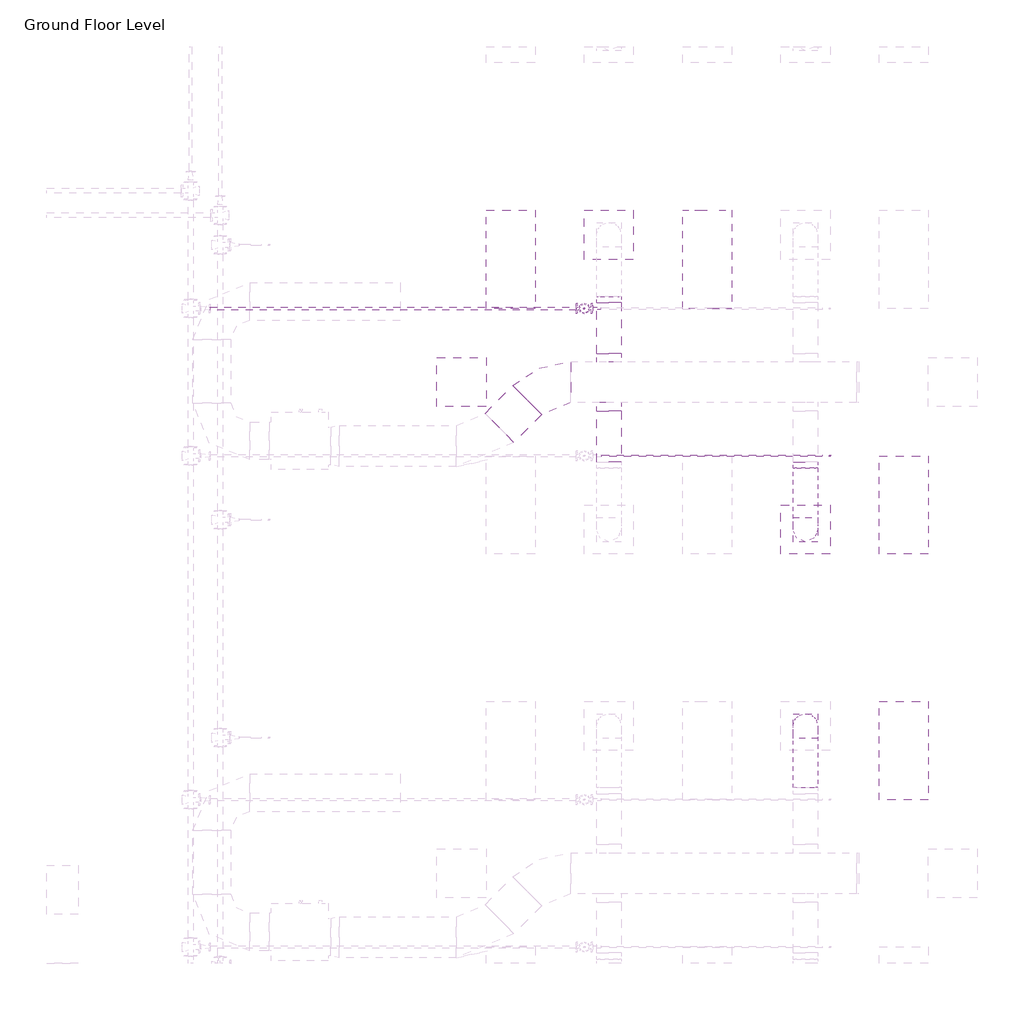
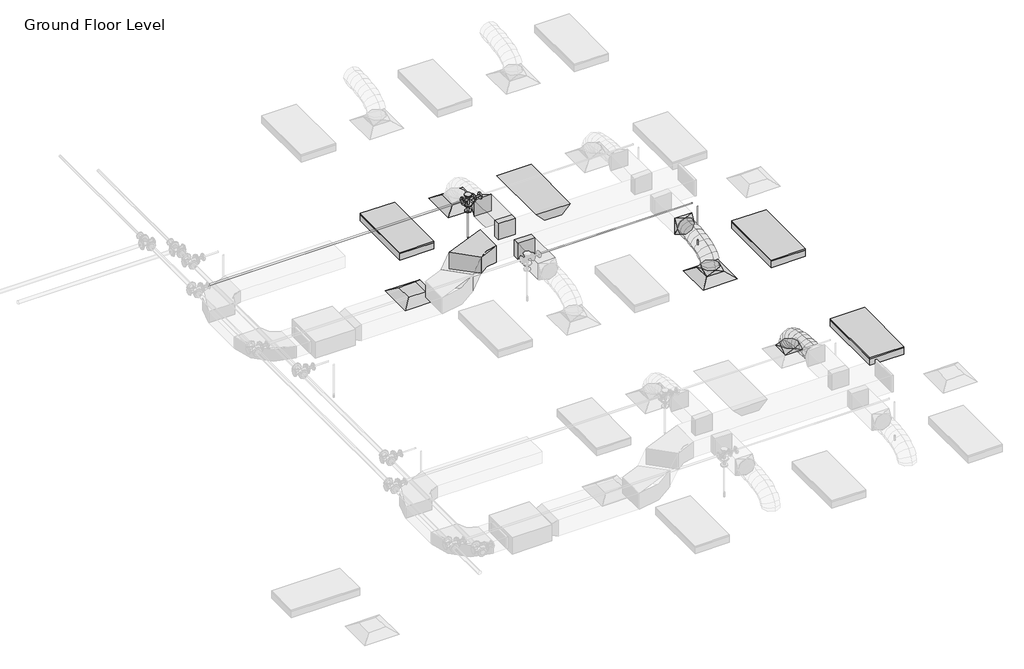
# One storey, part 62 of 66: 7 duct fittings, 5 duct segments, 4 light fixtures, 4 pipe segments, 3 air terminals, 3 pipe fittings, 2 fire suppression terminals.
"""IFC4 building model written with IfcOpenShell, lengths in millimetres."""

from ifc_helpers import new_model, si_unit, point, frame, frame_2d, origin, place, context, project, spatial, polyline, circle_curve, ellipse_curve, trimmed, segment, composite_curve, outline, extrude, transform, mapped, element, save
from ifc_brep_helpers import plane_surface, cylinder_surface, advanced_brep
from components import m_return_diffuser_600_x_600_face_300_x_300_connection_ff221211, m_rectangular_elbow_radius_1_5_w_acc56c25, m_rectangular_takeoff_standard_cb0ccb98, m_rectangular_takeoff_standard_2be5eba1, m_rectangular_to_round_transition_angle_45_degree_641efff0, m_sprinkler_dry_pendent_hosted_15_mm_dry_pendent_9bda8e11, m_emergency_recessed_lighting_fixture_600x1200_277_5b10b25d, m_troffer_light_parabolic_rectangular1_0600x1200mm_4_lamp_86473d4a, m_reducer_flanged_cs_class_150_standard_ccf252ad, m_tee_round_base_flanged_cs_class_150_standard_7e5987a1

model = new_model("IFC4")

# Units and contexts
model_context = context("Model", 3, world=origin())
ifc_project = project(units=[si_unit("LENGTHUNIT", "METRE", prefix="MILLI")], contexts=[model_context])

# Site, building, storey
site = spatial("IfcSite", under=ifc_project)
building = spatial("IfcBuilding", under=site)
storey = spatial("IfcBuildingStorey", under=building, Name="Ground Floor Level", Elevation=900.0)

# Air terminals
placement = place(None, origin())
m_return_diffuser_600_x_600_face_300_x_300_connection_shape = m_return_diffuser_600_x_600_face_300_x_300_connection_ff221211(model_context)
element("IfcAirTerminal", 1, ObjectType="M_Return Diffuser : 600 x 600 Face 300 x 300 Connection", at=placement, inside=storey, context=model_context, shape_type="MappedRepresentation", body=[
    mapped(m_return_diffuser_600_x_600_face_300_x_300_connection_shape, transform((8942.7672395, 12735.2153534, 3650.0), x_axis=(1.0, 0.0, 0.0), y_axis=(0.0, 1.0, 0.0), z_axis=(0.0, 0.0, 1.0))),
])
element("IfcAirTerminal", 2, ObjectType="M_Supply Diffuser : 600 x 600 Face 300 x 300 Connection", at=placement, inside=storey, context=model_context, shape_type="MappedRepresentation", body=[
    mapped(m_return_diffuser_600_x_600_face_300_x_300_connection_shape, transform((10742.7672395, 14535.2153534, 3650.0), x_axis=(1.0, 0.0, 0.0), y_axis=(0.0, 1.0, 0.0), z_axis=(0.0, 0.0, 1.0))),
])
element("IfcAirTerminal", 3, ObjectType="M_Supply Diffuser : 600 x 600 Face 300 x 300 Connection", at=placement, inside=storey, context=model_context, shape_type="MappedRepresentation", body=[
    mapped(m_return_diffuser_600_x_600_face_300_x_300_connection_shape, transform((13142.7672395, 10935.2153534, 3650.0), x_axis=(1.0, 0.0, 0.0), y_axis=(0.0, 1.0, 0.0), z_axis=(0.0, 0.0, 1.0))),
])

# Duct fittings
m_rectangular_elbow_radius_1_5_w_shape = m_rectangular_elbow_radius_1_5_w_acc56c25(model_context)
element("IfcDuctFitting", 4, ObjectType="M_Rectangular Elbow - Radius : 1.5 W", at=placement, inside=storey, context=model_context, shape_type="MappedRepresentation", body=[
    mapped(m_rectangular_elbow_radius_1_5_w_shape, transform((9966.7301365, 12735.2153534, 4100.0), x_axis=(-1.0, 0.0, 0.0), y_axis=(0.0, -0.9999999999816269, 6.061864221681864e-06), z_axis=(0.0, 6.061864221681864e-06, 0.9999999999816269))),
])
m_rectangular_takeoff_standard_shape = m_rectangular_takeoff_standard_cb0ccb98(model_context)
element("IfcDuctFitting", 5, ObjectType="M_Rectangular Takeoff : Standard", at=placement, inside=storey, context=model_context, shape_type="MappedRepresentation", body=[
    mapped(m_rectangular_takeoff_standard_shape, transform((10742.7672395, 12985.2153534, 4100.0), x_axis=(0.0, 1.0, 0.0), y_axis=(1.0, 0.0, 0.0), z_axis=(0.0, 0.0, -1.0))),
])
m_rectangular_takeoff_standard_2_shape = m_rectangular_takeoff_standard_2be5eba1(model_context)
element("IfcDuctFitting", 6, ObjectType="M_Rectangular Takeoff : Standard", at=placement, inside=storey, context=model_context, shape_type="MappedRepresentation", body=[
    mapped(m_rectangular_takeoff_standard_2_shape, transform((10742.7672395, 12485.2153534, 4100.0), x_axis=(0.0, -1.0, 0.0), y_axis=(-1.0, 0.0, 0.0), z_axis=(0.0, 0.0, -1.0))),
])
m_rectangular_to_round_transition_angle_45_degree_shape = m_rectangular_to_round_transition_angle_45_degree_641efff0(model_context)
element("IfcDuctFitting", 7, ObjectType="M_Rectangular to Round Transition - Angle : 45 Degree", at=placement, inside=storey, context=model_context, shape_type="MappedRepresentation", body=[
    mapped(m_rectangular_to_round_transition_angle_45_degree_shape, transform((13142.7672395, 8535.2153534, 3751.6), x_axis=(0.0, 0.0, 1.0), y_axis=(-1.0, 0.0, 0.0), z_axis=(0.0, -1.0, 0.0))),
])
element("IfcDuctFitting", 8, ObjectType="M_Rectangular to Round Transition - Angle : 45 Degree", at=placement, inside=storey, context=model_context, shape_type="MappedRepresentation", body=[
    mapped(m_rectangular_to_round_transition_angle_45_degree_shape, transform((10742.7672395, 13707.8794221, 4100.0), x_axis=(0.0, 1.0, 0.0), y_axis=(-1.0, 0.0, 0.0), z_axis=(0.0, 0.0, 1.0))),
])
element("IfcDuctFitting", 9, ObjectType="M_Rectangular to Round Transition - Angle : 45 Degree", at=placement, inside=storey, context=model_context, shape_type="MappedRepresentation", body=[
    mapped(m_rectangular_to_round_transition_angle_45_degree_shape, transform((13142.7672395, 10935.2153534, 3751.6), x_axis=(0.0, 0.0, 1.0), y_axis=(-1.0, 0.0, 0.0), z_axis=(0.0, -1.0, 0.0))),
])
element("IfcDuctFitting", 10, ObjectType="M_Rectangular to Round Transition - Angle : 45 Degree", at=placement, inside=storey, context=model_context, shape_type="MappedRepresentation", body=[
    mapped(m_rectangular_to_round_transition_angle_45_degree_shape, transform((13142.7672395, 11762.5512847, 4100.0), x_axis=(0.0, -1.0, 0.0), y_axis=(1.0, 0.0, 0.0), z_axis=(0.0, 0.0, 1.0))),
])

# Duct segments
element("IfcDuctSegment", 11, ObjectType="Flex - Round", at=placement, inside=storey, context=model_context, shape_type="AdvancedBrep", body=[
    advanced_brep(
    [(13292.7672395, 8535.2153534, 3826.6), (13142.7672395, 8385.2153534, 3826.6), (12992.7672395, 8535.2153534, 3826.6), (13142.7672395, 8685.2153534, 3826.6), (13292.7672395, 8535.2153534, 3857.9377114), (13142.7672395, 8385.2153534, 3832.2944892), (12992.7672395, 8535.2153534, 3857.9377114), (13142.7672395, 8685.2153534, 3883.5809337), (13292.7672395, 8518.1994208, 3906.2505728), (13142.7672395, 8384.4614419, 3834.435049), (12992.7672395, 8518.1994208, 3906.2505728), (13142.7672395, 8651.9373998, 3978.0660967), (13292.7672395, 8471.0155405, 3968.7113131), (13142.7672395, 8366.8096412, 3857.8020236), (12992.7672395, 8471.0155405, 3968.7113131), (13142.7672395, 8575.2214397, 4079.6206026), (13292.7672395, 8399.4595883, 4016.0700639), (13142.7672395, 8330.5255327, 3881.8163788), (12992.7672395, 8399.4595883, 4016.0700639), (13142.7672395, 8468.3936439, 4150.3237489), (13292.7672395, 8309.3274403, 4050.4146682), (13142.7672395, 8265.7666771, 3906.4925606), (12992.7672395, 8309.3274403, 4050.4146682), (13142.7672395, 8352.8882035, 4194.3367758), (13292.7672395, 8206.4149725, 4073.8329691), (13142.7672395, 8179.8540485, 3926.0424542), (12992.7672395, 8206.4149725, 4073.8329691), (13142.7672395, 8232.9758965, 4221.6234841), (13292.7672395, 8096.5180607, 4088.4128097), (13142.7672395, 8081.3671584, 3939.1085462), (12992.7672395, 8096.5180607, 4088.4128097), (13142.7672395, 8111.6689631, 4237.7170733), (13292.7672395, 7985.4325811, 4096.242033), (13142.7672395, 7977.9272529, 3946.398915), (12992.7672395, 7985.4325811, 4096.242033), (13142.7672395, 7992.9379093, 4246.085151), (13292.7672395, 7878.9544096, 4099.4084821), (13142.7672395, 7876.2629165, 3949.4222102), (12992.7672395, 7878.9544096, 4099.4084821), (13142.7672395, 7881.6459027, 4249.394754), (13292.7672395, 7782.8794221, 4100.0), (13142.7672395, 7783.8029299, 4249.9971571), (12992.7672395, 7782.8794221, 4100.0), (13142.7672395, 7781.9559143, 3950.0028429)],
    [
        (0, 1, circle_curve(frame((13142.7672395, 8535.2153534, 3826.6), z_axis=(0.0, 0.0, -1.0), x_axis=(1.0, 0.0, 0.0)), 150.0)),
        (1, 2, circle_curve(frame((13142.7672395, 8535.2153534, 3826.6), z_axis=(0.0, 0.0, -1.0), x_axis=(1.0, 0.0, 0.0)), 150.0)),
        (2, 3, circle_curve(frame((13142.7672395, 8535.2153534, 3826.6), z_axis=(0.0, 0.0, -1.0), x_axis=(1.0, 0.0, 0.0)), 150.0)),
        (3, 0, circle_curve(frame((13142.7672395, 8535.2153534, 3826.6), z_axis=(0.0, 0.0, -1.0), x_axis=(1.0, 0.0, 0.0)), 150.0)),
        (0, 4),
        (4, 5, ellipse_curve(frame((13142.7672395, 8535.2153534, 3857.9377114), z_axis=(0.0, 0.16851014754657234, -0.9856999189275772), x_axis=(0.0, -0.9856999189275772, -0.1685101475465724)), 152.176131, 150.0)),
        (5, 1),
        (5, 6, ellipse_curve(frame((13142.7672395, 8535.2153534, 3857.9377114), z_axis=(0.0, 0.16851014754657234, -0.9856999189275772), x_axis=(0.0, -0.9856999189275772, -0.1685101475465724)), 152.176131, 150.0)),
        (6, 2),
        (6, 7, ellipse_curve(frame((13142.7672395, 8535.2153534, 3857.9377114), z_axis=(0.0, 0.16851014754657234, -0.9856999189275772), x_axis=(0.0, -0.9856999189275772, -0.1685101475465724)), 152.176131, 150.0)),
        (7, 3),
        (7, 4, ellipse_curve(frame((13142.7672395, 8535.2153534, 3857.9377114), z_axis=(0.0, 0.16851014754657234, -0.9856999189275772), x_axis=(0.0, -0.9856999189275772, -0.1685101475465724)), 152.176131, 150.0)),
        (4, 8),
        (8, 9, ellipse_curve(frame((13142.7672395, 8518.1994208, 3906.2505728), z_axis=(0.0, 0.4730922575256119, -0.8810128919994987), x_axis=(0.0, -0.8810128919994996, -0.47309225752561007)), 151.8002519, 150.0)),
        (9, 5),
        (9, 10, ellipse_curve(frame((13142.7672395, 8518.1994208, 3906.2505728), z_axis=(0.0, 0.4730922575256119, -0.8810128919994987), x_axis=(0.0, -0.8810128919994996, -0.47309225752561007)), 151.8002519, 150.0)),
        (10, 6),
        (10, 11, ellipse_curve(frame((13142.7672395, 8518.1994208, 3906.2505728), z_axis=(0.0, 0.4730922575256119, -0.8810128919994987), x_axis=(0.0, -0.8810128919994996, -0.47309225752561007)), 151.8002519, 150.0)),
        (11, 7),
        (11, 8, ellipse_curve(frame((13142.7672395, 8518.1994208, 3906.2505728), z_axis=(0.0, 0.4730922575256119, -0.8810128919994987), x_axis=(0.0, -0.8810128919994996, -0.47309225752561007)), 151.8002519, 150.0)),
        (8, 12),
        (12, 13, ellipse_curve(frame((13142.7672395, 8471.0155405, 3968.7113131), z_axis=(0.0, 0.7287877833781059, -0.6847396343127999), x_axis=(0.0, -0.6847396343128, -0.7287877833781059)), 152.1832446, 150.0)),
        (13, 9),
        (13, 14, ellipse_curve(frame((13142.7672395, 8471.0155405, 3968.7113131), z_axis=(0.0, 0.7287877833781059, -0.6847396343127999), x_axis=(0.0, -0.6847396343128, -0.7287877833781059)), 152.1832446, 150.0)),
        (14, 10),
        (14, 15, ellipse_curve(frame((13142.7672395, 8471.0155405, 3968.7113131), z_axis=(0.0, 0.7287877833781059, -0.6847396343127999), x_axis=(0.0, -0.6847396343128, -0.7287877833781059)), 152.1832446, 150.0)),
        (15, 11),
        (15, 12, ellipse_curve(frame((13142.7672395, 8471.0155405, 3968.7113131), z_axis=(0.0, 0.7287877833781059, -0.6847396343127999), x_axis=(0.0, -0.6847396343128, -0.7287877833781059)), 152.1832446, 150.0)),
        (12, 16),
        (16, 17, ellipse_curve(frame((13142.7672395, 8399.4595883, 4016.0700639), z_axis=(0.0, 0.8895859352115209, -0.4567678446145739), x_axis=(0.0, -0.4567678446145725, -0.8895859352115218)), 150.91705, 150.0)),
        (17, 13),
        (17, 18, ellipse_curve(frame((13142.7672395, 8399.4595883, 4016.0700639), z_axis=(0.0, 0.8895859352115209, -0.4567678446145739), x_axis=(0.0, -0.4567678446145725, -0.8895859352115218)), 150.91705, 150.0)),
        (18, 14),
        (18, 19, ellipse_curve(frame((13142.7672395, 8399.4595883, 4016.0700639), z_axis=(0.0, 0.8895859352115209, -0.4567678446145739), x_axis=(0.0, -0.4567678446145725, -0.8895859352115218)), 150.91705, 150.0)),
        (19, 15),
        (19, 16, ellipse_curve(frame((13142.7672395, 8399.4595883, 4016.0700639), z_axis=(0.0, 0.8895859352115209, -0.4567678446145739), x_axis=(0.0, -0.4567678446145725, -0.8895859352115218)), 150.91705, 150.0)),
        (16, 20),
        (20, 21, ellipse_curve(frame((13142.7672395, 8309.3274403, 4050.4146682), z_axis=(0.0, 0.9571203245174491, -0.28969067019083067), x_axis=(0.0, -0.28969067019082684, -0.9571203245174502)), 150.369921, 150.0)),
        (21, 17),
        (21, 22, ellipse_curve(frame((13142.7672395, 8309.3274403, 4050.4146682), z_axis=(0.0, 0.9571203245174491, -0.28969067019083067), x_axis=(0.0, -0.28969067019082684, -0.9571203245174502)), 150.369921, 150.0)),
        (22, 18),
        (22, 23, ellipse_curve(frame((13142.7672395, 8309.3274403, 4050.4146682), z_axis=(0.0, 0.9571203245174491, -0.28969067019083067), x_axis=(0.0, -0.28969067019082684, -0.9571203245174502)), 150.369921, 150.0)),
        (23, 19),
        (23, 20, ellipse_curve(frame((13142.7672395, 8309.3274403, 4050.4146682), z_axis=(0.0, 0.9571203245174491, -0.28969067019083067), x_axis=(0.0, -0.28969067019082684, -0.9571203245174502)), 150.369921, 150.0)),
        (20, 24),
        (24, 25, ellipse_curve(frame((13142.7672395, 8206.4149725, 4073.8329691), z_axis=(0.0, 0.9842313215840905, -0.17688613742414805), x_axis=(0.0, -0.17688613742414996, -0.9842313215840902)), 150.1583131, 150.0)),
        (25, 21),
        (25, 26, ellipse_curve(frame((13142.7672395, 8206.4149725, 4073.8329691), z_axis=(0.0, 0.9842313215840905, -0.17688613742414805), x_axis=(0.0, -0.17688613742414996, -0.9842313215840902)), 150.1583131, 150.0)),
        (26, 22),
        (26, 27, ellipse_curve(frame((13142.7672395, 8206.4149725, 4073.8329691), z_axis=(0.0, 0.9842313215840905, -0.17688613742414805), x_axis=(0.0, -0.17688613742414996, -0.9842313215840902)), 150.1583131, 150.0)),
        (27, 23),
        (27, 24, ellipse_curve(frame((13142.7672395, 8206.4149725, 4073.8329691), z_axis=(0.0, 0.9842313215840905, -0.17688613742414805), x_axis=(0.0, -0.17688613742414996, -0.9842313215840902)), 150.1583131, 150.0)),
        (24, 28),
        (28, 29, ellipse_curve(frame((13142.7672395, 8096.5180607, 4088.4128097), z_axis=(0.0, 0.9948906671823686, -0.10095821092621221), x_axis=(0.0, -0.10095821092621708, -0.9948906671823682)), 150.0710264, 150.0)),
        (29, 25),
        (29, 30, ellipse_curve(frame((13142.7672395, 8096.5180607, 4088.4128097), z_axis=(0.0, 0.9948906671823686, -0.10095821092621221), x_axis=(0.0, -0.10095821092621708, -0.9948906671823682)), 150.0710264, 150.0)),
        (30, 26),
        (30, 31, ellipse_curve(frame((13142.7672395, 8096.5180607, 4088.4128097), z_axis=(0.0, 0.9948906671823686, -0.10095821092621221), x_axis=(0.0, -0.10095821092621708, -0.9948906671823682)), 150.0710264, 150.0)),
        (31, 27),
        (31, 28, ellipse_curve(frame((13142.7672395, 8096.5180607, 4088.4128097), z_axis=(0.0, 0.9948906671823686, -0.10095821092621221), x_axis=(0.0, -0.10095821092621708, -0.9948906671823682)), 150.0710264, 150.0)),
        (28, 32),
        (32, 33, ellipse_curve(frame((13142.7672395, 7985.4325811, 4096.242033), z_axis=(0.0, 0.9987479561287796, -0.05002519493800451), x_axis=(0.0, -0.050025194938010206, -0.9987479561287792)), 150.0309634, 150.0)),
        (33, 29),
        (33, 34, ellipse_curve(frame((13142.7672395, 7985.4325811, 4096.242033), z_axis=(0.0, 0.9987479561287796, -0.05002519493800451), x_axis=(0.0, -0.050025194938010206, -0.9987479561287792)), 150.0309634, 150.0)),
        (34, 30),
        (34, 35, ellipse_curve(frame((13142.7672395, 7985.4325811, 4096.242033), z_axis=(0.0, 0.9987479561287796, -0.05002519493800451), x_axis=(0.0, -0.050025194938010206, -0.9987479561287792)), 150.0309634, 150.0)),
        (35, 31),
        (35, 32, ellipse_curve(frame((13142.7672395, 7985.4325811, 4096.242033), z_axis=(0.0, 0.9987479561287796, -0.05002519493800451), x_axis=(0.0, -0.050025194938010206, -0.9987479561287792)), 150.0309634, 150.0)),
        (32, 36),
        (36, 37, ellipse_curve(frame((13142.7672395, 7878.9544096, 4099.4084821), z_axis=(0.0, 0.9998390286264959, -0.017942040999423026), x_axis=(0.0, -0.01794204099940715, -0.9998390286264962)), 150.0104193, 150.0)),
        (37, 33),
        (37, 38, ellipse_curve(frame((13142.7672395, 7878.9544096, 4099.4084821), z_axis=(0.0, 0.9998390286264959, -0.017942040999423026), x_axis=(0.0, -0.01794204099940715, -0.9998390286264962)), 150.0104193, 150.0)),
        (38, 34),
        (38, 39, ellipse_curve(frame((13142.7672395, 7878.9544096, 4099.4084821), z_axis=(0.0, 0.9998390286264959, -0.017942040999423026), x_axis=(0.0, -0.01794204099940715, -0.9998390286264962)), 150.0104193, 150.0)),
        (39, 35),
        (39, 36, ellipse_curve(frame((13142.7672395, 7878.9544096, 4099.4084821), z_axis=(0.0, 0.9998390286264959, -0.017942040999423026), x_axis=(0.0, -0.01794204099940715, -0.9998390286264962)), 150.0104193, 150.0)),
        (40, 41, circle_curve(frame((13142.7672395, 7782.8794221, 4100.0), z_axis=(0.0, -0.9999810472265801, 0.006156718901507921), x_axis=(1.0, 0.0, 0.0)), 150.0)),
        (41, 42, circle_curve(frame((13142.7672395, 7782.8794221, 4100.0), z_axis=(0.0, -0.9999810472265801, 0.006156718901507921), x_axis=(1.0, 0.0, 0.0)), 150.0)),
        (42, 43, circle_curve(frame((13142.7672395, 7782.8794221, 4100.0), z_axis=(0.0, -0.9999810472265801, 0.006156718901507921), x_axis=(1.0, 0.0, 0.0)), 150.0)),
        (43, 40, circle_curve(frame((13142.7672395, 7782.8794221, 4100.0), z_axis=(0.0, -0.9999810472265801, 0.006156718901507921), x_axis=(1.0, 0.0, 0.0)), 150.0)),
        (36, 40),
        (43, 37),
        (42, 38),
        (41, 39),
    ],
    [
        plane_surface(frame((13142.7672395, 8385.2153534, 3826.6), z_axis=(0.0, 0.0, -1.0), x_axis=(1.0, 0.0, 0.0))),
        cylinder_surface(frame((13142.7672395, 8535.2153534, 3826.6), z_axis=(0.0, 0.0, -1.0), x_axis=(1.0, 0.0, 0.0)), 150.0),
        cylinder_surface(frame((13142.7672395, 8535.2153534, 3857.9377114), z_axis=(0.0, 0.3322008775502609, -0.9432086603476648), x_axis=(1.0, 0.0, 0.0)), 150.0),
        cylinder_surface(frame((13142.7672395, 8518.1994208, 3906.2505728), z_axis=(0.0, 0.6027625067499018, -0.7979206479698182), x_axis=(1.0, 0.0, 0.0)), 150.0),
        cylinder_surface(frame((13142.7672395, 8471.0155405, 3968.7113131), z_axis=(0.0, 0.8339024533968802, -0.5519118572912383), x_axis=(1.0, 0.0, 0.0)), 150.0),
        cylinder_surface(frame((13142.7672395, 8399.4595883, 4016.0700639), z_axis=(0.0, 0.934458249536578, -0.35607271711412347), x_axis=(1.0, 0.0, 0.0)), 150.0),
        cylinder_surface(frame((13142.7672395, 8309.3274403, 4050.4146682), z_axis=(0.0, 0.9750732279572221, -0.22188330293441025), x_axis=(1.0, 0.0, 0.0)), 150.0),
        cylinder_surface(frame((13142.7672395, 8206.4149725, 4073.8329691), z_axis=(0.0, 0.9913140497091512, -0.1315159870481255), x_axis=(1.0, 0.0, 0.0)), 150.0),
        cylinder_surface(frame((13142.7672395, 8096.5180607, 4088.4128097), z_axis=(0.0, 0.9975255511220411, -0.07030487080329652), x_axis=(1.0, 0.0, 0.0)), 150.0),
        cylinder_surface(frame((13142.7672395, 7985.4325811, 4096.242033), z_axis=(0.0, 0.9995581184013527, -0.02972487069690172), x_axis=(1.0, 0.0, 0.0)), 150.0),
        plane_surface(frame((13142.7672395, 7781.9559143, 3950.0028429), z_axis=(0.0, -0.9999810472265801, 0.006156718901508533), x_axis=(1.0, 0.0, 0.0))),
        cylinder_surface(frame((13142.7672395, 7878.9544096, 4099.4084821), z_axis=(0.0, 0.9999810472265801, -0.006156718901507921), x_axis=(1.0, 0.0, 0.0)), 150.0),
    ],
    [
        (0, [[1, 2, 3, 4]]),
        (1, [[-1, 5, 6, 7]]),
        (1, [[-2, -7, 8, 9]]),
        (1, [[-3, -9, 10, 11]]),
        (1, [[-4, -11, 12, -5]]),
        (2, [[-6, 13, 14, 15]]),
        (2, [[-8, -15, 16, 17]]),
        (2, [[-10, -17, 18, 19]]),
        (2, [[-12, -19, 20, -13]]),
        (3, [[-14, 21, 22, 23]]),
        (3, [[-16, -23, 24, 25]]),
        (3, [[-18, -25, 26, 27]]),
        (3, [[-20, -27, 28, -21]]),
        (4, [[-22, 29, 30, 31]]),
        (4, [[-24, -31, 32, 33]]),
        (4, [[-26, -33, 34, 35]]),
        (4, [[-28, -35, 36, -29]]),
        (5, [[-30, 37, 38, 39]]),
        (5, [[-32, -39, 40, 41]]),
        (5, [[-34, -41, 42, 43]]),
        (5, [[-36, -43, 44, -37]]),
        (6, [[-38, 45, 46, 47]]),
        (6, [[-40, -47, 48, 49]]),
        (6, [[-42, -49, 50, 51]]),
        (6, [[-44, -51, 52, -45]]),
        (7, [[-46, 53, 54, 55]]),
        (7, [[-48, -55, 56, 57]]),
        (7, [[-50, -57, 58, 59]]),
        (7, [[-52, -59, 60, -53]]),
        (8, [[-54, 61, 62, 63]]),
        (8, [[-56, -63, 64, 65]]),
        (8, [[-58, -65, 66, 67]]),
        (8, [[-60, -67, 68, -61]]),
        (9, [[-62, 69, 70, 71]]),
        (9, [[-64, -71, 72, 73]]),
        (9, [[-66, -73, 74, 75]]),
        (9, [[-68, -75, 76, -69]]),
        (10, [[77, 78, 79, 80]]),
        (11, [[-70, 81, -80, 82]]),
        (11, [[-72, -82, -79, 83]]),
        (11, [[-74, -83, -78, 84]]),
        (11, [[-76, -84, -77, -81]]),
    ],
),
])
element("IfcDuctSegment", 12, ObjectType="Flex - Round", at=placement, inside=storey, context=model_context, shape_type="AdvancedBrep", body=[
    advanced_brep(
    [(13292.7672395, 10935.2153534, 3826.6), (13142.7672395, 10785.2153534, 3826.6), (12992.7672395, 10935.2153534, 3826.6), (13142.7672395, 11085.2153534, 3826.6), (13292.7672395, 10935.2153534, 3857.9377114), (13142.7672395, 10785.2153534, 3883.5809337), (12992.7672395, 10935.2153534, 3857.9377114), (13142.7672395, 11085.2153534, 3832.2944892), (13292.7672395, 10952.2312859, 3906.2505728), (13142.7672395, 10818.493307, 3978.0660967), (12992.7672395, 10952.2312859, 3906.2505728), (13142.7672395, 11085.9692649, 3834.435049), (13292.7672395, 10999.4151663, 3968.7113131), (13142.7672395, 10895.209267, 4079.6206026), (12992.7672395, 10999.4151663, 3968.7113131), (13142.7672395, 11103.6210655, 3857.8020236), (13292.7672395, 11070.9711184, 4016.0700639), (13142.7672395, 11002.0370628, 4150.3237489), (12992.7672395, 11070.9711184, 4016.0700639), (13142.7672395, 11139.9051741, 3881.8163788), (13292.7672395, 11161.1032664, 4050.4146682), (13142.7672395, 11117.5425033, 4194.3367758), (12992.7672395, 11161.1032664, 4050.4146682), (13142.7672395, 11204.6640296, 3906.4925606), (13292.7672395, 11264.0157343, 4073.8329691), (13142.7672395, 11237.4548103, 4221.6234841), (12992.7672395, 11264.0157343, 4073.8329691), (13142.7672395, 11290.5766583, 3926.0424542), (13292.7672395, 11373.912646, 4088.4128097), (13142.7672395, 11358.7617437, 4237.7170733), (12992.7672395, 11373.912646, 4088.4128097), (13142.7672395, 11389.0635483, 3939.1085462), (13292.7672395, 11484.9981256, 4096.242033), (13142.7672395, 11477.4927975, 4246.085151), (12992.7672395, 11484.9981256, 4096.242033), (13142.7672395, 11492.5034538, 3946.398915), (13292.7672395, 11591.4762972, 4099.4084821), (13142.7672395, 11588.7848041, 4249.394754), (12992.7672395, 11591.4762972, 4099.4084821), (13142.7672395, 11594.1677903, 3949.4222102), (13292.7672395, 11687.5512847, 4100.0), (13142.7672395, 11688.4747925, 3950.0028429), (12992.7672395, 11687.5512847, 4100.0), (13142.7672395, 11686.6277768, 4249.9971571)],
    [
        (0, 1, circle_curve(frame((13142.7672395, 10935.2153534, 3826.6), z_axis=(0.0, 0.0, -1.0), x_axis=(1.0, 0.0, 0.0)), 150.0)),
        (1, 2, circle_curve(frame((13142.7672395, 10935.2153534, 3826.6), z_axis=(0.0, 0.0, -1.0), x_axis=(1.0, 0.0, 0.0)), 150.0)),
        (2, 3, circle_curve(frame((13142.7672395, 10935.2153534, 3826.6), z_axis=(0.0, 0.0, -1.0), x_axis=(1.0, 0.0, 0.0)), 150.0)),
        (3, 0, circle_curve(frame((13142.7672395, 10935.2153534, 3826.6), z_axis=(0.0, 0.0, -1.0), x_axis=(1.0, 0.0, 0.0)), 150.0)),
        (0, 4),
        (4, 5, ellipse_curve(frame((13142.7672395, 10935.2153534, 3857.9377114), z_axis=(0.0, -0.16851014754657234, -0.9856999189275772), x_axis=(0.0, 0.9856999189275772, -0.1685101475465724)), 152.176131, 150.0)),
        (5, 1),
        (5, 6, ellipse_curve(frame((13142.7672395, 10935.2153534, 3857.9377114), z_axis=(0.0, -0.16851014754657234, -0.9856999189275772), x_axis=(0.0, 0.9856999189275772, -0.1685101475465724)), 152.176131, 150.0)),
        (6, 2),
        (6, 7, ellipse_curve(frame((13142.7672395, 10935.2153534, 3857.9377114), z_axis=(0.0, -0.16851014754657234, -0.9856999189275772), x_axis=(0.0, 0.9856999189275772, -0.1685101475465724)), 152.176131, 150.0)),
        (7, 3),
        (7, 4, ellipse_curve(frame((13142.7672395, 10935.2153534, 3857.9377114), z_axis=(0.0, -0.16851014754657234, -0.9856999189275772), x_axis=(0.0, 0.9856999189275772, -0.1685101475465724)), 152.176131, 150.0)),
        (4, 8),
        (8, 9, ellipse_curve(frame((13142.7672395, 10952.2312859, 3906.2505728), z_axis=(0.0, -0.47309225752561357, -0.8810128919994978), x_axis=(0.0, 0.8810128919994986, -0.47309225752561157)), 151.8002519, 150.0)),
        (9, 5),
        (9, 10, ellipse_curve(frame((13142.7672395, 10952.2312859, 3906.2505728), z_axis=(0.0, -0.47309225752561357, -0.8810128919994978), x_axis=(0.0, 0.8810128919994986, -0.47309225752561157)), 151.8002519, 150.0)),
        (10, 6),
        (10, 11, ellipse_curve(frame((13142.7672395, 10952.2312859, 3906.2505728), z_axis=(0.0, -0.47309225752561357, -0.8810128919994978), x_axis=(0.0, 0.8810128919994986, -0.47309225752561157)), 151.8002519, 150.0)),
        (11, 7),
        (11, 8, ellipse_curve(frame((13142.7672395, 10952.2312859, 3906.2505728), z_axis=(0.0, -0.47309225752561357, -0.8810128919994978), x_axis=(0.0, 0.8810128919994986, -0.47309225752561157)), 151.8002519, 150.0)),
        (8, 12),
        (12, 13, ellipse_curve(frame((13142.7672395, 10999.4151663, 3968.7113131), z_axis=(0.0, -0.7287877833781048, -0.6847396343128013), x_axis=(0.0, 0.6847396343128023, -0.7287877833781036)), 152.1832446, 150.0)),
        (13, 9),
        (13, 14, ellipse_curve(frame((13142.7672395, 10999.4151663, 3968.7113131), z_axis=(0.0, -0.7287877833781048, -0.6847396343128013), x_axis=(0.0, 0.6847396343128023, -0.7287877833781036)), 152.1832446, 150.0)),
        (14, 10),
        (14, 15, ellipse_curve(frame((13142.7672395, 10999.4151663, 3968.7113131), z_axis=(0.0, -0.7287877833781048, -0.6847396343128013), x_axis=(0.0, 0.6847396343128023, -0.7287877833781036)), 152.1832446, 150.0)),
        (15, 11),
        (15, 12, ellipse_curve(frame((13142.7672395, 10999.4151663, 3968.7113131), z_axis=(0.0, -0.7287877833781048, -0.6847396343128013), x_axis=(0.0, 0.6847396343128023, -0.7287877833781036)), 152.1832446, 150.0)),
        (12, 16),
        (16, 17, ellipse_curve(frame((13142.7672395, 11070.9711184, 4016.0700639), z_axis=(0.0, -0.8895859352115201, -0.45676784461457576), x_axis=(0.0, 0.45676784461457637, -0.8895859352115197)), 150.91705, 150.0)),
        (17, 13),
        (17, 18, ellipse_curve(frame((13142.7672395, 11070.9711184, 4016.0700639), z_axis=(0.0, -0.8895859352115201, -0.45676784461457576), x_axis=(0.0, 0.45676784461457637, -0.8895859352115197)), 150.91705, 150.0)),
        (18, 14),
        (18, 19, ellipse_curve(frame((13142.7672395, 11070.9711184, 4016.0700639), z_axis=(0.0, -0.8895859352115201, -0.45676784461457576), x_axis=(0.0, 0.45676784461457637, -0.8895859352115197)), 150.91705, 150.0)),
        (19, 15),
        (19, 16, ellipse_curve(frame((13142.7672395, 11070.9711184, 4016.0700639), z_axis=(0.0, -0.8895859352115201, -0.45676784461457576), x_axis=(0.0, 0.45676784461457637, -0.8895859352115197)), 150.91705, 150.0)),
        (16, 20),
        (20, 21, ellipse_curve(frame((13142.7672395, 11161.1032664, 4050.4146682), z_axis=(0.0, -0.9571203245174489, -0.2896906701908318), x_axis=(0.0, 0.28969067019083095, -0.9571203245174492)), 150.369921, 150.0)),
        (21, 17),
        (21, 22, ellipse_curve(frame((13142.7672395, 11161.1032664, 4050.4146682), z_axis=(0.0, -0.9571203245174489, -0.2896906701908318), x_axis=(0.0, 0.28969067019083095, -0.9571203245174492)), 150.369921, 150.0)),
        (22, 18),
        (22, 23, ellipse_curve(frame((13142.7672395, 11161.1032664, 4050.4146682), z_axis=(0.0, -0.9571203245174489, -0.2896906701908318), x_axis=(0.0, 0.28969067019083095, -0.9571203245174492)), 150.369921, 150.0)),
        (23, 19),
        (23, 20, ellipse_curve(frame((13142.7672395, 11161.1032664, 4050.4146682), z_axis=(0.0, -0.9571203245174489, -0.2896906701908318), x_axis=(0.0, 0.28969067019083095, -0.9571203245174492)), 150.369921, 150.0)),
        (20, 24),
        (24, 25, ellipse_curve(frame((13142.7672395, 11264.0157343, 4073.8329691), z_axis=(0.0, -0.9842313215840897, -0.17688613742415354), x_axis=(0.0, 0.1768861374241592, -0.9842313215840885)), 150.1583131, 150.0)),
        (25, 21),
        (25, 26, ellipse_curve(frame((13142.7672395, 11264.0157343, 4073.8329691), z_axis=(0.0, -0.9842313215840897, -0.17688613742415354), x_axis=(0.0, 0.1768861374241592, -0.9842313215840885)), 150.1583131, 150.0)),
        (26, 22),
        (26, 27, ellipse_curve(frame((13142.7672395, 11264.0157343, 4073.8329691), z_axis=(0.0, -0.9842313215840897, -0.17688613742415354), x_axis=(0.0, 0.1768861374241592, -0.9842313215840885)), 150.1583131, 150.0)),
        (27, 23),
        (27, 24, ellipse_curve(frame((13142.7672395, 11264.0157343, 4073.8329691), z_axis=(0.0, -0.9842313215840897, -0.17688613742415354), x_axis=(0.0, 0.1768861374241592, -0.9842313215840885)), 150.1583131, 150.0)),
        (24, 28),
        (28, 29, ellipse_curve(frame((13142.7672395, 11373.912646, 4088.4128097), z_axis=(0.0, -0.9948906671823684, -0.10095821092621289), x_axis=(0.0, 0.10095821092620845, -0.9948906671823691)), 150.0710264, 150.0)),
        (29, 25),
        (29, 30, ellipse_curve(frame((13142.7672395, 11373.912646, 4088.4128097), z_axis=(0.0, -0.9948906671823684, -0.10095821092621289), x_axis=(0.0, 0.10095821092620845, -0.9948906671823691)), 150.0710264, 150.0)),
        (30, 26),
        (30, 31, ellipse_curve(frame((13142.7672395, 11373.912646, 4088.4128097), z_axis=(0.0, -0.9948906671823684, -0.10095821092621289), x_axis=(0.0, 0.10095821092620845, -0.9948906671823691)), 150.0710264, 150.0)),
        (31, 27),
        (31, 28, ellipse_curve(frame((13142.7672395, 11373.912646, 4088.4128097), z_axis=(0.0, -0.9948906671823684, -0.10095821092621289), x_axis=(0.0, 0.10095821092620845, -0.9948906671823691)), 150.0710264, 150.0)),
        (28, 32),
        (32, 33, ellipse_curve(frame((13142.7672395, 11484.9981256, 4096.242033), z_axis=(0.0, -0.9987479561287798, -0.050025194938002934), x_axis=(0.0, 0.05002519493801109, -0.9987479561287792)), 150.0309634, 150.0)),
        (33, 29),
        (33, 34, ellipse_curve(frame((13142.7672395, 11484.9981256, 4096.242033), z_axis=(0.0, -0.9987479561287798, -0.050025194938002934), x_axis=(0.0, 0.05002519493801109, -0.9987479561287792)), 150.0309634, 150.0)),
        (34, 30),
        (34, 35, ellipse_curve(frame((13142.7672395, 11484.9981256, 4096.242033), z_axis=(0.0, -0.9987479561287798, -0.050025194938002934), x_axis=(0.0, 0.05002519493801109, -0.9987479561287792)), 150.0309634, 150.0)),
        (35, 31),
        (35, 32, ellipse_curve(frame((13142.7672395, 11484.9981256, 4096.242033), z_axis=(0.0, -0.9987479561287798, -0.050025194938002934), x_axis=(0.0, 0.05002519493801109, -0.9987479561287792)), 150.0309634, 150.0)),
        (32, 36),
        (36, 37, ellipse_curve(frame((13142.7672395, 11591.4762972, 4099.4084821), z_axis=(0.0, -0.9998390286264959, -0.017942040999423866), x_axis=(0.0, 0.017942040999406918, -0.9998390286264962)), 150.0104193, 150.0)),
        (37, 33),
        (37, 38, ellipse_curve(frame((13142.7672395, 11591.4762972, 4099.4084821), z_axis=(0.0, -0.9998390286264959, -0.017942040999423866), x_axis=(0.0, 0.017942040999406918, -0.9998390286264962)), 150.0104193, 150.0)),
        (38, 34),
        (38, 39, ellipse_curve(frame((13142.7672395, 11591.4762972, 4099.4084821), z_axis=(0.0, -0.9998390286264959, -0.017942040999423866), x_axis=(0.0, 0.017942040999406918, -0.9998390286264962)), 150.0104193, 150.0)),
        (39, 35),
        (39, 36, ellipse_curve(frame((13142.7672395, 11591.4762972, 4099.4084821), z_axis=(0.0, -0.9998390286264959, -0.017942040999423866), x_axis=(0.0, 0.017942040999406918, -0.9998390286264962)), 150.0104193, 150.0)),
        (40, 41, circle_curve(frame((13142.7672395, 11687.5512847, 4100.0), z_axis=(0.0, 0.9999810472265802, 0.006156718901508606), x_axis=(1.0, 0.0, 0.0)), 150.0)),
        (41, 42, circle_curve(frame((13142.7672395, 11687.5512847, 4100.0), z_axis=(0.0, 0.9999810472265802, 0.006156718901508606), x_axis=(1.0, 0.0, 0.0)), 150.0)),
        (42, 43, circle_curve(frame((13142.7672395, 11687.5512847, 4100.0), z_axis=(0.0, 0.9999810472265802, 0.006156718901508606), x_axis=(1.0, 0.0, 0.0)), 150.0)),
        (43, 40, circle_curve(frame((13142.7672395, 11687.5512847, 4100.0), z_axis=(0.0, 0.9999810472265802, 0.006156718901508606), x_axis=(1.0, 0.0, 0.0)), 150.0)),
        (36, 40),
        (43, 37),
        (42, 38),
        (41, 39),
    ],
    [
        plane_surface(frame((13142.7672395, 10785.2153534, 3826.6), z_axis=(0.0, 0.0, -1.0), x_axis=(1.0, 0.0, 0.0))),
        cylinder_surface(frame((13142.7672395, 10935.2153534, 3826.6), z_axis=(0.0, 0.0, -1.0), x_axis=(1.0, 0.0, 0.0)), 150.0),
        cylinder_surface(frame((13142.7672395, 10935.2153534, 3857.9377114), z_axis=(0.0, -0.3322008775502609, -0.9432086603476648), x_axis=(1.0, 0.0, 0.0)), 150.0),
        cylinder_surface(frame((13142.7672395, 10952.2312859, 3906.2505728), z_axis=(0.0, -0.6027625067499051, -0.7979206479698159), x_axis=(1.0, 0.0, 0.0)), 150.0),
        cylinder_surface(frame((13142.7672395, 10999.4151663, 3968.7113131), z_axis=(0.0, -0.833902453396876, -0.5519118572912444), x_axis=(1.0, 0.0, 0.0)), 150.0),
        cylinder_surface(frame((13142.7672395, 11070.9711184, 4016.0700639), z_axis=(0.0, -0.9344582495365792, -0.35607271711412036), x_axis=(1.0, 0.0, 0.0)), 150.0),
        cylinder_surface(frame((13142.7672395, 11161.1032664, 4050.4146682), z_axis=(0.0, -0.9750732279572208, -0.22188330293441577), x_axis=(1.0, 0.0, 0.0)), 150.0),
        cylinder_surface(frame((13142.7672395, 11264.0157343, 4073.8329691), z_axis=(0.0, -0.9913140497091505, -0.131515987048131), x_axis=(1.0, 0.0, 0.0)), 150.0),
        cylinder_surface(frame((13142.7672395, 11373.912646, 4088.4128097), z_axis=(0.0, -0.9975255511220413, -0.07030487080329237), x_axis=(1.0, 0.0, 0.0)), 150.0),
        cylinder_surface(frame((13142.7672395, 11484.9981256, 4096.242033), z_axis=(0.0, -0.9995581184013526, -0.029724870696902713), x_axis=(1.0, 0.0, 0.0)), 150.0),
        plane_surface(frame((13142.7672395, 11686.6277768, 4249.9971571), z_axis=(0.0, 0.9999810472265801, 0.0061567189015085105), x_axis=(1.0, 0.0, 0.0))),
        cylinder_surface(frame((13142.7672395, 11591.4762972, 4099.4084821), z_axis=(0.0, -0.9999810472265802, -0.006156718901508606), x_axis=(1.0, 0.0, 0.0)), 150.0),
    ],
    [
        (0, [[1, 2, 3, 4]]),
        (1, [[-1, 5, 6, 7]]),
        (1, [[-2, -7, 8, 9]]),
        (1, [[-3, -9, 10, 11]]),
        (1, [[-4, -11, 12, -5]]),
        (2, [[-6, 13, 14, 15]]),
        (2, [[-8, -15, 16, 17]]),
        (2, [[-10, -17, 18, 19]]),
        (2, [[-12, -19, 20, -13]]),
        (3, [[-14, 21, 22, 23]]),
        (3, [[-16, -23, 24, 25]]),
        (3, [[-18, -25, 26, 27]]),
        (3, [[-20, -27, 28, -21]]),
        (4, [[-22, 29, 30, 31]]),
        (4, [[-24, -31, 32, 33]]),
        (4, [[-26, -33, 34, 35]]),
        (4, [[-28, -35, 36, -29]]),
        (5, [[-30, 37, 38, 39]]),
        (5, [[-32, -39, 40, 41]]),
        (5, [[-34, -41, 42, 43]]),
        (5, [[-36, -43, 44, -37]]),
        (6, [[-38, 45, 46, 47]]),
        (6, [[-40, -47, 48, 49]]),
        (6, [[-42, -49, 50, 51]]),
        (6, [[-44, -51, 52, -45]]),
        (7, [[-46, 53, 54, 55]]),
        (7, [[-48, -55, 56, 57]]),
        (7, [[-50, -57, 58, 59]]),
        (7, [[-52, -59, 60, -53]]),
        (8, [[-54, 61, 62, 63]]),
        (8, [[-56, -63, 64, 65]]),
        (8, [[-58, -65, 66, 67]]),
        (8, [[-60, -67, 68, -61]]),
        (9, [[-62, 69, 70, 71]]),
        (9, [[-64, -71, 72, 73]]),
        (9, [[-66, -73, 74, 75]]),
        (9, [[-68, -75, 76, -69]]),
        (10, [[77, 78, 79, 80]]),
        (11, [[-70, 81, -80, 82]]),
        (11, [[-72, -82, -79, 83]]),
        (11, [[-74, -83, -78, 84]]),
        (11, [[-76, -84, -77, -81]]),
    ],
),
])
element("IfcDuctSegment", 13, ObjectType="Radius Elbows / Taps", at=placement, inside=storey, context=model_context, shape_type="SweptSolid", body=[
    extrude(outline(polyline([(9584.1393452, 11999.0711715), (9230.5859546, 12352.6245621), (9570.2835271, 12692.3221346), (9923.8369177, 12338.768744), (9584.1393452, 11999.0711715)])), frame((0.0, 0.0, 3950.0033908), z_axis=(0.0, 0.0, 1.0), x_axis=(1.0, 0.0, 0.0)), (0.0, 0.0, 1.0), 300.0),
])
element("IfcDuctSegment", 14, ObjectType="Radius Elbows / Taps", at=placement, inside=storey, context=model_context, shape_type="SweptSolid", body=[
    extrude(outline(polyline([(10892.7672395, 13086.8153534), (10592.7672395, 13086.8153534), (10592.7672395, 13707.8794221), (10892.7672395, 13707.8794221), (10892.7672395, 13086.8153534)])), frame((0.0, 0.0, 3950.0), z_axis=(0.0, 0.0, 1.0), x_axis=(1.0, 0.0, 0.0)), (0.0, 0.0, 1.0), 300.0),
])
element("IfcDuctSegment", 15, ObjectType="Radius Elbows / Taps", at=placement, inside=storey, context=model_context, shape_type="SweptSolid", body=[
    extrude(outline(polyline([(10592.7672395, 12383.6153534), (10892.7672395, 12383.6153534), (10892.7672395, 11762.5512847), (10592.7672395, 11762.5512847), (10592.7672395, 12383.6153534)])), frame((0.0, 0.0, 3950.0), z_axis=(0.0, 0.0, 1.0), x_axis=(1.0, 0.0, 0.0)), (0.0, 0.0, 1.0), 300.0),
])

# Fire suppression terminals
m_sprinkler_dry_pendent_hosted_15_mm_dry_pendent_shape = m_sprinkler_dry_pendent_hosted_15_mm_dry_pendent_9bda8e11(model_context)
element("IfcFireSuppressionTerminal", 16, ObjectType="M_Sprinkler - Dry - Pendent - Hosted : 15 mm Dry Pendent", at=placement, inside=storey, context=model_context, shape_type="MappedRepresentation", body=[
    mapped(m_sprinkler_dry_pendent_hosted_15_mm_dry_pendent_shape, transform((10442.7672395, 13635.2153534, 3650.0), x_axis=(1.0, 0.0, 0.0), y_axis=(0.0, -1.0, 0.0), z_axis=(0.0, 0.0, -1.0))),
])
element("IfcFireSuppressionTerminal", 17, ObjectType="M_Sprinkler - Dry - Pendent - Hosted : 15 mm Dry Pendent", at=placement, inside=storey, context=model_context, shape_type="MappedRepresentation", body=[
    mapped(m_sprinkler_dry_pendent_hosted_15_mm_dry_pendent_shape, transform((13442.7672395, 11835.2153534, 3650.0), x_axis=(1.0, 0.0, 0.0), y_axis=(0.0, -1.0, 0.0), z_axis=(0.0, 0.0, -1.0))),
])

# Light fixtures
m_emergency_recessed_lighting_fixture_600x1200_277_shape = m_emergency_recessed_lighting_fixture_600x1200_277_5b10b25d(model_context)
element("IfcLightFixture", 18, ObjectType="M_Emergency Recessed Lighting Fixture : 600x1200 - 277", at=placement, inside=storey, context=model_context, shape_type="MappedRepresentation", body=[
    mapped(m_emergency_recessed_lighting_fixture_600x1200_277_shape, transform((11642.7672395, 13635.2153534, 3650.0), x_axis=(0.0, 1.0, 0.0), y_axis=(-1.0, 0.0, 0.0), z_axis=(0.0, 0.0, 1.0))),
])
m_troffer_light_parabolic_rectangular1_0600x1200mm_4_lamp_shape = m_troffer_light_parabolic_rectangular1_0600x1200mm_4_lamp_86473d4a(model_context)
element("IfcLightFixture", 19, ObjectType="M_Troffer Light - Parabolic Rectangular1 : 0600x1200mm(4 Lamp) - 277V 2", at=placement, inside=storey, context=model_context, shape_type="MappedRepresentation", body=[
    mapped(m_troffer_light_parabolic_rectangular1_0600x1200mm_4_lamp_shape, transform((9483.3013074, 14253.918855, 3650.0), x_axis=(0.0, 1.0, 0.0), y_axis=(-1.0, 0.0, 0.0), z_axis=(0.0, 0.0, 1.0))),
])
element("IfcLightFixture", 20, ObjectType="M_Troffer Light - Parabolic Rectangular1 : 0600x1200mm(4 Lamp) - 277V 2", at=placement, inside=storey, context=model_context, shape_type="MappedRepresentation", body=[
    mapped(m_troffer_light_parabolic_rectangular1_0600x1200mm_4_lamp_shape, transform((14283.3013074, 11253.918855, 3650.0), x_axis=(0.0, 1.0, 0.0), y_axis=(-1.0, 0.0, 0.0), z_axis=(0.0, 0.0, 1.0))),
])
element("IfcLightFixture", 21, ObjectType="M_Troffer Light - Parabolic Rectangular1 : 0600x1200mm(4 Lamp) - 277V 2", at=placement, inside=storey, context=model_context, shape_type="MappedRepresentation", body=[
    mapped(m_troffer_light_parabolic_rectangular1_0600x1200mm_4_lamp_shape, transform((14283.3013074, 8253.9188549, 3650.0), x_axis=(0.0, 1.0, 0.0), y_axis=(-1.0, 0.0, 0.0), z_axis=(0.0, 0.0, 1.0))),
])

# Pipe fittings
m_reducer_flanged_cs_class_150_standard_shape = m_reducer_flanged_cs_class_150_standard_ccf252ad(model_context)
element("IfcPipeFitting", 22, ObjectType="M_Reducer - Flanged - CS - Class 150 : Standard", at=placement, inside=storey, context=model_context, shape_type="MappedRepresentation", body=[
    mapped(m_reducer_flanged_cs_class_150_standard_shape, transform((10543.4758332, 13635.2153534, 4360.0), x_axis=(1.0, 0.0, 0.0), y_axis=(0.0, 0.0, 1.0), z_axis=(0.0, -1.0, 0.0))),
])
element("IfcPipeFitting", 23, ObjectType="M_Reducer - Flanged - CS - Class 150 : Standard", at=placement, inside=storey, context=model_context, shape_type="MappedRepresentation", body=[
    mapped(m_reducer_flanged_cs_class_150_standard_shape, transform((10442.7672395, 13635.2153534, 4259.2914062), x_axis=(0.0, 0.0, -1.0), y_axis=(-1.0, 0.0, 0.0), z_axis=(0.0, 1.0, 0.0))),
])
m_tee_round_base_flanged_cs_class_150_standard_shape = m_tee_round_base_flanged_cs_class_150_standard_7e5987a1(model_context)
element("IfcPipeFitting", 24, ObjectType="M_Tee Round Base - Flanged - CS - Class 150 : Standard", at=placement, inside=storey, context=model_context, shape_type="MappedRepresentation", body=[
    mapped(m_tee_round_base_flanged_cs_class_150_standard_shape, transform((10442.7672395, 13635.2153534, 4360.0), x_axis=(1.0, 0.0, 0.0), y_axis=(0.0, 0.0, 1.0), z_axis=(0.0, -1.0, 0.0))),
])

# Pipe segments
element("IfcPipeSegment", 25, ObjectType="Steel flanged", at=placement, inside=storey, context=model_context, shape_type="SweptSolid", body=[
    extrude(outline(composite_curve([segment(trimmed(circle_curve(frame_2d((13442.7672395, 11835.2153534)), 10.668), [point((13432.0992395, 11835.2153534))], [point((13442.7672395, 11845.8833534))], False, "CARTESIAN"), True, "CONTINUOUS"), segment(trimmed(circle_curve(frame_2d((13442.7672395, 11835.2153534)), 10.668), [point((13442.7672395, 11845.8833534))], [point((13453.4352395, 11835.2153534))], False, "CARTESIAN"), True, "CONTINUOUS"), segment(trimmed(circle_curve(frame_2d((13442.7672395, 11835.2153534)), 10.668), [point((13453.4352395, 11835.2153534))], [point((13442.7672395, 11824.5473534))], False, "CARTESIAN"), True, "CONTINUOUS"), segment(trimmed(circle_curve(frame_2d((13442.7672395, 11835.2153534)), 10.668), [point((13442.7672395, 11824.5473534))], [point((13432.0992395, 11835.2153534))], False, "CARTESIAN"), True, "CONTINUOUS")], self_intersect=False)), frame((0.0, 0.0, 3650.0), z_axis=(0.0, 0.0, 1.0), x_axis=(1.0, 0.0, 0.0)), (0.0, 0.0, 1.0), 616.9914062),
])
element("IfcPipeSegment", 26, ObjectType="Steel flanged", at=placement, inside=storey, context=model_context, shape_type="SweptSolid", body=[
    extrude(outline(composite_curve([segment(trimmed(circle_curve(frame_2d((10442.7672395, 13635.2153534)), 10.668), [point((10432.0992395, 13635.2153534))], [point((10442.7672395, 13645.8833534))], False, "CARTESIAN"), True, "CONTINUOUS"), segment(trimmed(circle_curve(frame_2d((10442.7672395, 13635.2153534)), 10.668), [point((10442.7672395, 13645.8833534))], [point((10453.4352395, 13635.2153534))], False, "CARTESIAN"), True, "CONTINUOUS"), segment(trimmed(circle_curve(frame_2d((10442.7672395, 13635.2153534)), 10.668), [point((10453.4352395, 13635.2153534))], [point((10442.7672395, 13624.5473534))], False, "CARTESIAN"), True, "CONTINUOUS"), segment(trimmed(circle_curve(frame_2d((10442.7672395, 13635.2153534)), 10.668), [point((10442.7672395, 13624.5473534))], [point((10432.0992395, 13635.2153534))], False, "CARTESIAN"), True, "CONTINUOUS")], self_intersect=False)), frame((0.0, 0.0, 3650.0), z_axis=(0.0, 0.0, 1.0), x_axis=(1.0, 0.0, 0.0)), (0.0, 0.0, 1.0), 495.2914062),
])
element("IfcPipeSegment", 27, ObjectType="Steel flanged", at=placement, inside=storey, context=model_context, shape_type="SweptSolid", body=[
    extrude(outline(composite_curve([segment(trimmed(circle_curve(frame_2d((13635.2153534, 4360.0)), 16.7005), [point((13651.9158534, 4360.0))], [point((13635.2153534, 4343.2995))], False, "CARTESIAN"), True, "CONTINUOUS"), segment(trimmed(circle_curve(frame_2d((13635.2153534, 4360.0)), 16.7005), [point((13635.2153534, 4343.2995))], [point((13618.5148534, 4360.0))], False, "CARTESIAN"), True, "CONTINUOUS"), segment(trimmed(circle_curve(frame_2d((13635.2153534, 4360.0)), 16.7005), [point((13618.5148534, 4360.0))], [point((13635.2153534, 4376.7005))], False, "CARTESIAN"), True, "CONTINUOUS"), segment(trimmed(circle_curve(frame_2d((13635.2153534, 4360.0)), 16.7005), [point((13635.2153534, 4376.7005))], [point((13651.9158534, 4360.0))], False, "CARTESIAN"), True, "CONTINUOUS")], self_intersect=False)), frame((5876.869498, 0.0, 0.0), z_axis=(1.0, 0.0, 0.0), x_axis=(0.0, 1.0, 0.0)), (0.0, 0.0, 1.0), 4465.1891477),
])
element("IfcPipeSegment", 28, ObjectType="Steel flanged", at=placement, inside=storey, context=model_context, shape_type="SweptSolid", body=[
    extrude(outline(composite_curve([segment(trimmed(circle_curve(frame_2d((11835.2153534, 4360.0)), 10.668), [point((11845.8833534, 4360.0))], [point((11835.2153534, 4349.332))], False, "CARTESIAN"), True, "CONTINUOUS"), segment(trimmed(circle_curve(frame_2d((11835.2153534, 4360.0)), 10.668), [point((11835.2153534, 4349.332))], [point((11824.5473534, 4360.0))], False, "CARTESIAN"), True, "CONTINUOUS"), segment(trimmed(circle_curve(frame_2d((11835.2153534, 4360.0)), 10.668), [point((11824.5473534, 4360.0))], [point((11835.2153534, 4370.668))], False, "CARTESIAN"), True, "CONTINUOUS"), segment(trimmed(circle_curve(frame_2d((11835.2153534, 4360.0)), 10.668), [point((11835.2153534, 4370.668))], [point((11845.8833534, 4360.0))], False, "CARTESIAN"), True, "CONTINUOUS")], self_intersect=False)), frame((10657.4758332, 0.0, 0.0), z_axis=(1.0, 0.0, 0.0), x_axis=(0.0, 1.0, 0.0)), (0.0, 0.0, 1.0), 2692.2828125),
])

save(model, "model.ifc")
